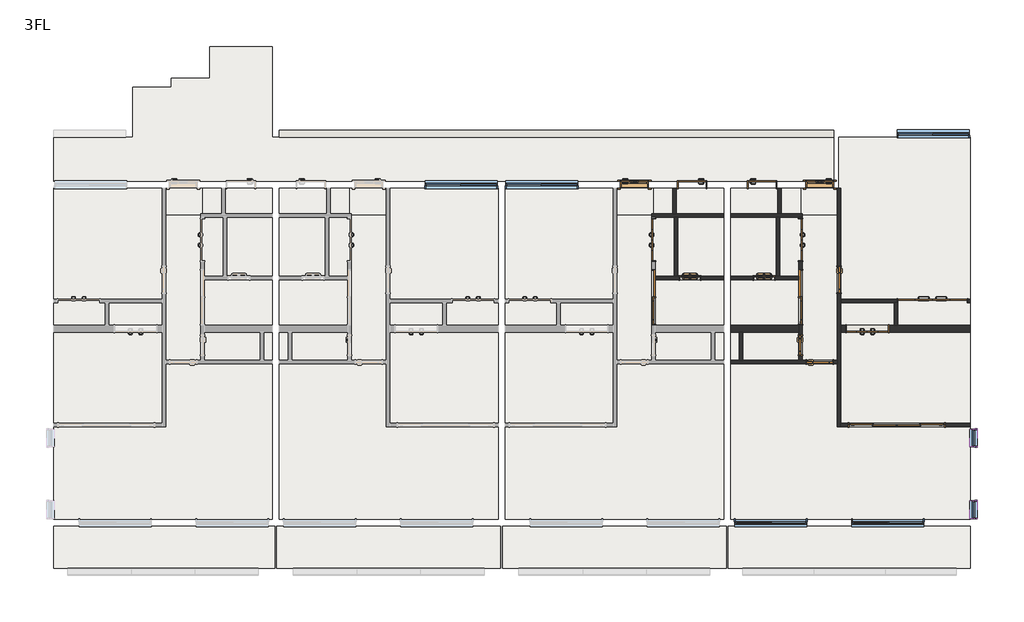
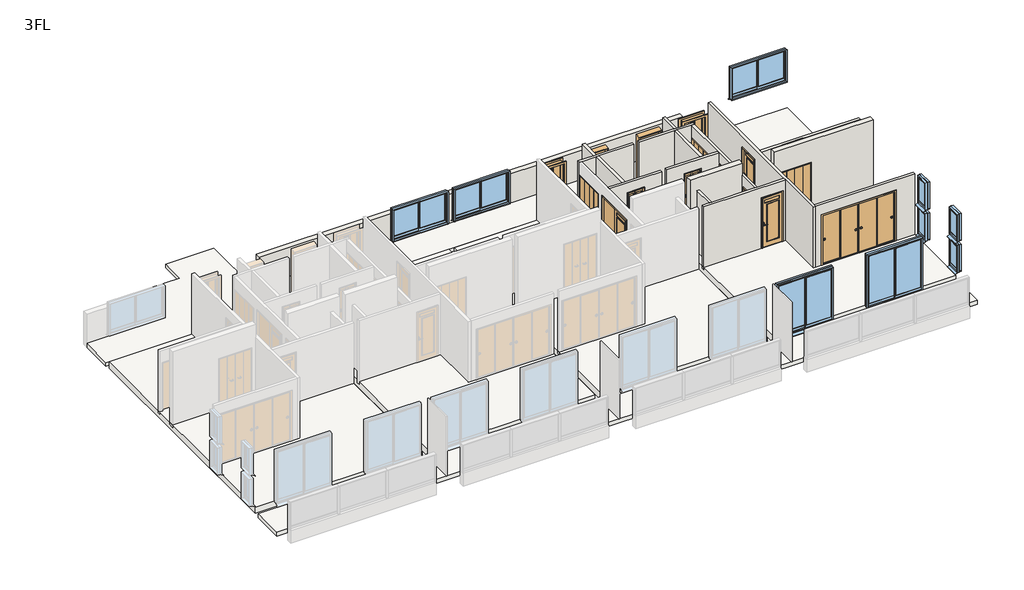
# One storey, part 3 of 3: 18 walls, 16 doors, 14 slabs, 9 windows.
"""IFC4 building model written with IfcOpenShell, lengths in millimetres."""

from ifc_helpers import new_model, si_unit, frame, origin, place, context, project, spatial, polyline, outline, extrude, faceted_brep, transform, mapped, element, save
from components import door_1200x2000_6a144d60, door_1200x2000_ebe1d490, door_1200x2000_99d19fb3, door_1600x2000_09a7ee27, door_1600x2000_1f5bdc43, door_2800x2000_04aa64cd, door_600x2000_6a266bef, door_600x2000_8ea70a65, door_600x2000_94bb9c3c, door_800x2000_a7d1584b, door_800x2000_13e9f519, door_800x2000_ccb03061, door_800x2000_010bfebf, w2000h2000_5dbb6d6a, w800h2000_1d97c4d4, w800h2000_0ab7d42c, window_2000x1200_fc91d1cf, window_2000x2000_f1ff98da, window_450x1000_e0a5e2da, window_450x1000_1cddc73c

model = new_model("IFC4")

# Units and contexts
model_context = context("Model", 3, world=origin())
ifc_project = project(units=[si_unit("LENGTHUNIT", "METRE", prefix="MILLI")], contexts=[model_context])

# Site, building, storey
site = spatial("IfcSite", under=ifc_project)
building = spatial("IfcBuilding", under=site)
storey = spatial("IfcBuildingStorey", under=building, Name="3FL", Elevation=7000.0)

# Doors
placement = place(None, origin())
door_1200x2000_shape = door_1200x2000_6a144d60(model_context)
element("IfcDoor", 1, ObjectType="木製折戸 : 1200x2000", at=placement, inside=storey, context=model_context, shape_type="MappedRepresentation", body=[
    mapped(door_1200x2000_shape, transform((6071.2812754, -7280.1171638, 7000.0), x_axis=(0.0, 1.0, 0.0), y_axis=(-1.0, 0.0, 0.0), z_axis=(0.0, 0.0, 1.0))),
])
door_1200x2000_2_shape = door_1200x2000_ebe1d490(model_context)
element("IfcDoor", 2, ObjectType="木製折戸 : 1200x2000", at=placement, inside=storey, context=model_context, shape_type="MappedRepresentation", body=[
    mapped(door_1200x2000_2_shape, transform((12183.7812754, -9820.1171638, 7100.0), x_axis=(1.0, 0.0, 0.0), y_axis=(0.0, 1.0, 0.0), z_axis=(0.0, 0.0, 1.0))),
])
door_1200x2000_3_shape = door_1200x2000_99d19fb3(model_context)
element("IfcDoor", 3, ObjectType="木製折戸 : 1200x2000", at=placement, inside=storey, context=model_context, shape_type="MappedRepresentation", body=[
    mapped(door_1200x2000_3_shape, transform((10271.2812754, -7280.1171638, 7000.0), x_axis=(0.0, 1.0, 0.0), y_axis=(-1.0, 0.0, 0.0), z_axis=(0.0, 0.0, 1.0))),
])
door_1600x2000_shape = door_1600x2000_09a7ee27(model_context)
element("IfcDoor", 4, ObjectType="片引戸CL2017 : 1600x2000", at=placement, inside=storey, context=model_context, shape_type="MappedRepresentation", body=[
    mapped(door_1600x2000_shape, transform((6071.2812754, -8920.1171638, 7100.0), x_axis=(0.0, -1.0, 0.0), y_axis=(1.0, 0.0, 0.0), z_axis=(0.0, 0.0, 1.0))),
])
door_1600x2000_2_shape = door_1600x2000_1f5bdc43(model_context)
element("IfcDoor", 5, ObjectType="片引戸CL2017 : 1600x2000", at=placement, inside=storey, context=model_context, shape_type="MappedRepresentation", body=[
    mapped(door_1600x2000_2_shape, transform((10271.2812754, -8920.1171638, 7100.0), x_axis=(0.0, -1.0, 0.0), y_axis=(1.0, 0.0, 0.0), z_axis=(0.0, 0.0, 1.0))),
])
door_2800x2000_shape = door_2800x2000_04aa64cd(model_context)
element("IfcDoor", 6, ObjectType="引違い 4 枚 2 溝_襖 : 2800x2000", at=placement, inside=storey, context=model_context, shape_type="MappedRepresentation", body=[
    mapped(door_2800x2000_shape, transform((13015.7457714, -12570.1171638, 7100.0), x_axis=(-1.0, 0.0, 0.0), y_axis=(0.0, -1.0, 0.0), z_axis=(0.0, 0.0, 1.0))),
])
door_600x2000_shape = door_600x2000_6a266bef(model_context)
element("IfcDoor", 7, ObjectType="浴室折戸 : 600x2000", at=placement, inside=storey, context=model_context, shape_type="MappedRepresentation", body=[
    mapped(door_600x2000_shape, transform((7111.2812754, -8370.1171638, 7100.0), x_axis=(1.0, 0.0, 0.0), y_axis=(0.0, 1.0, 0.0), z_axis=(0.0, 0.0, 1.0))),
])
door_600x2000_2_shape = door_600x2000_8ea70a65(model_context)
element("IfcDoor", 8, ObjectType="片開き戸CL2058 : 600x2000", at=placement, inside=storey, context=model_context, shape_type="MappedRepresentation", body=[
    mapped(door_600x2000_2_shape, transform((10271.2812754, -10295.1171638, 7100.0), x_axis=(0.0, -1.0, 0.0), y_axis=(1.0, 0.0, 0.0), z_axis=(0.0, 0.0, 1.0))),
])
door_600x2000_3_shape = door_600x2000_94bb9c3c(model_context)
element("IfcDoor", 9, ObjectType="浴室折戸 : 600x2000", at=placement, inside=storey, context=model_context, shape_type="MappedRepresentation", body=[
    mapped(door_600x2000_3_shape, transform((9231.2812754, -8370.1171638, 7100.0), x_axis=(-1.0, 0.0, 0.0), y_axis=(0.0, -1.0, 0.0), z_axis=(0.0, 0.0, 1.0))),
])
door_800x2000_shape = door_800x2000_a7d1584b(model_context)
element("IfcDoor", 10, ObjectType="片開き3 : 800x2000", at=placement, inside=storey, context=model_context, shape_type="MappedRepresentation", body=[
    mapped(door_800x2000_shape, transform((5521.2812754, -5700.1171638, 7000.0), x_axis=(1.0, 0.0, 0.0), y_axis=(0.0, 1.0, 0.0), z_axis=(0.0, 0.0, 1.0))),
])
door_800x2000_2_shape = door_800x2000_13e9f519(model_context)
element("IfcDoor", 11, ObjectType="片開き戸CL2058 : 800x2000", at=placement, inside=storey, context=model_context, shape_type="MappedRepresentation", body=[
    mapped(door_800x2000_2_shape, transform((10821.2812754, -10770.1171638, 7100.0), x_axis=(1.0, 0.0, 0.0), y_axis=(0.0, 1.0, 0.0), z_axis=(0.0, 0.0, 1.0))),
])
door_800x2000_3_shape = door_800x2000_ccb03061(model_context)
element("IfcDoor", 12, ObjectType="片開き戸CL2058 : 800x2000", at=placement, inside=storey, context=model_context, shape_type="MappedRepresentation", body=[
    mapped(door_800x2000_3_shape, transform((11371.2812754, -8420.1171638, 7100.0), x_axis=(0.0, -1.0, 0.0), y_axis=(1.0, 0.0, 0.0), z_axis=(0.0, 0.0, 1.0))),
])
door_800x2000_4_shape = door_800x2000_010bfebf(model_context)
element("IfcDoor", 13, ObjectType="片開き3 : 800x2000", at=placement, inside=storey, context=model_context, shape_type="MappedRepresentation", body=[
    mapped(door_800x2000_4_shape, transform((10821.2812754, -5700.1171638, 7000.0), x_axis=(-1.0, 0.0, 0.0), y_axis=(0.0, -1.0, 0.0), z_axis=(0.0, 0.0, 1.0))),
])
w2000h2000_shape = w2000h2000_5dbb6d6a(model_context)
element("IfcDoor", 14, ObjectType="木製折戸 : w2000h2000", at=placement, inside=storey, context=model_context, shape_type="MappedRepresentation", body=[
    mapped(w2000h2000_shape, transform((14046.2812754, -9020.1171638, 7000.0), x_axis=(-1.0, 0.0, 0.0), y_axis=(0.0, -1.0, 0.0), z_axis=(0.0, 0.0, 1.0))),
])
w800h2000_shape = w800h2000_1d97c4d4(model_context)
element("IfcDoor", 15, ObjectType="片開き : w800h2000", at=placement, inside=storey, context=model_context, shape_type="MappedRepresentation", body=[
    mapped(w800h2000_shape, transform((7171.2812754, -5700.1171638, 7000.0), x_axis=(-1.0, 0.0, 0.0), y_axis=(0.0, -1.0, 0.0), z_axis=(0.0, 0.0, 1.0))),
])
w800h2000_2_shape = w800h2000_0ab7d42c(model_context)
element("IfcDoor", 16, ObjectType="片開き : w800h2000", at=placement, inside=storey, context=model_context, shape_type="MappedRepresentation", body=[
    mapped(w800h2000_2_shape, transform((9171.2812754, -5700.1171638, 7000.0), x_axis=(1.0, 0.0, 0.0), y_axis=(0.0, 1.0, 0.0), z_axis=(0.0, 0.0, 1.0))),
])

# Slabs
element("IfcSlab", 17, ObjectType="RC150＋100", at=placement, inside=storey, context=model_context, shape_type="SweptSolid", body=[
    extrude(outline(polyline([(-4828.7187246, -15270.1171638), (-11078.7187246, -15270.1171638), (-11078.7187246, -5800.1171638), (-7928.7187246, -5800.1171638), (-7928.7187246, -6580.1171638), (-6828.7187246, -6580.1171638), (-6828.7187246, -5800.1171638), (-4828.7187246, -5800.1171638), (-4828.7187246, -6580.1171638), (-6188.7187246, -6580.1171638), (-6188.7187246, -8370.1171638), (-4828.7187246, -8370.1171638), (-4828.7187246, -15270.1171638)])), frame((0.0, 0.0, 6850.0), z_axis=(0.0, 0.0, 1.0), x_axis=(1.0, 0.0, 0.0)), (0.0, 0.0, 1.0), 250.0),
])
element("IfcSlab", 18, ObjectType="RC150＋100", at=placement, inside=storey, context=model_context, shape_type="SweptSolid", body=[
    extrude(outline(polyline([(-4628.7187246, -15270.1171638), (-4628.7187246, -8370.1171638), (-3268.7187246, -8370.1171638), (-3268.7187246, -6580.1171638), (-4628.7187246, -6580.1171638), (-4628.7187246, -5800.1171638), (-2628.7187246, -5800.1171638), (-2628.7187246, -6580.1171638), (-1528.7187246, -6580.1171638), (-1528.7187246, -5800.1171638), (1621.2812754, -5800.1171638), (1621.2812754, -15270.1171638), (-4628.7187246, -15270.1171638)])), frame((0.0, 0.0, 6850.0), z_axis=(0.0, 0.0, 1.0), x_axis=(1.0, 0.0, 0.0)), (0.0, 0.0, 1.0), 250.0),
])
element("IfcSlab", 19, ObjectType="RC150＋100", at=placement, inside=storey, context=model_context, shape_type="SweptSolid", body=[
    extrude(outline(polyline([(8071.2812754, -15270.1171638), (1821.2812754, -15270.1171638), (1821.2812754, -5800.1171638), (4971.2812754, -5800.1171638), (4971.2812754, -6580.1171638), (6071.2812754, -6580.1171638), (6071.2812754, -5800.1171638), (8071.2812754, -5800.1171638), (8071.2812754, -6580.1171638), (6711.2812754, -6580.1171638), (6711.2812754, -8370.1171638), (8071.2812754, -8370.1171638), (8071.2812754, -15270.1171638)])), frame((0.0, 0.0, 6850.0), z_axis=(0.0, 0.0, 1.0), x_axis=(1.0, 0.0, 0.0)), (0.0, 0.0, 1.0), 250.0),
])
element("IfcSlab", 20, ObjectType="RC150＋100", at=placement, inside=storey, context=model_context, shape_type="SweptSolid", body=[
    extrude(outline(polyline([(8271.2812754, -15270.1171638), (8271.2812754, -8370.1171638), (9631.2812754, -8370.1171638), (9631.2812754, -6580.1171638), (8271.2812754, -6580.1171638), (8271.2812754, -5800.1171638), (10271.2812754, -5800.1171638), (10271.2812754, -6580.1171638), (11371.2812754, -6580.1171638), (11371.2812754, -4350.1171638), (15121.2812754, -4350.1171638), (15121.2812754, -15270.1171638), (8271.2812754, -15270.1171638)])), frame((0.0, 0.0, 6850.0), z_axis=(0.0, 0.0, 1.0), x_axis=(1.0, 0.0, 0.0)), (0.0, 0.0, 1.0), 250.0),
])
element("IfcSlab", 21, ObjectType="RC150", at=placement, inside=storey, context=model_context, shape_type="SweptSolid", body=[
    extrude(outline(polyline([(-4828.7187246, -8370.1171638), (-6188.7187246, -8370.1171638), (-6188.7187246, -6580.1171638), (-4828.7187246, -6580.1171638), (-4828.7187246, -8370.1171638)])), frame((0.0, 0.0, 6850.0), z_axis=(0.0, 0.0, 1.0), x_axis=(1.0, 0.0, 0.0)), (0.0, 0.0, 1.0), 150.0),
])
element("IfcSlab", 22, ObjectType="RC150", at=placement, inside=storey, context=model_context, shape_type="SweptSolid", body=[
    extrude(outline(polyline([(-6828.7187246, -6580.1171638), (-7928.7187246, -6580.1171638), (-7928.7187246, -5800.1171638), (-6828.7187246, -5800.1171638), (-6828.7187246, -6580.1171638)])), frame((0.0, 0.0, 6800.0), z_axis=(0.0, 0.0, 1.0), x_axis=(1.0, 0.0, 0.0)), (0.0, 0.0, 1.0), 150.0),
])
element("IfcSlab", 23, ObjectType="RC150", at=placement, inside=storey, context=model_context, shape_type="SweptSolid", body=[
    extrude(outline(polyline([(-4628.7187246, -8370.1171638), (-4628.7187246, -6580.1171638), (-3268.7187246, -6580.1171638), (-3268.7187246, -8370.1171638), (-4628.7187246, -8370.1171638)])), frame((0.0, 0.0, 6850.0), z_axis=(0.0, 0.0, 1.0), x_axis=(1.0, 0.0, 0.0)), (0.0, 0.0, 1.0), 150.0),
])
element("IfcSlab", 24, ObjectType="RC150", at=placement, inside=storey, context=model_context, shape_type="SweptSolid", body=[
    extrude(outline(polyline([(-2628.7187246, -6580.1171638), (-2628.7187246, -5800.1171638), (-1528.7187246, -5800.1171638), (-1528.7187246, -6580.1171638), (-2628.7187246, -6580.1171638)])), frame((0.0, 0.0, 6800.0), z_axis=(0.0, 0.0, 1.0), x_axis=(1.0, 0.0, 0.0)), (0.0, 0.0, 1.0), 150.0),
])
element("IfcSlab", 25, ObjectType="RC150", at=placement, inside=storey, context=model_context, shape_type="SweptSolid", body=[
    extrude(outline(polyline([(8071.2812754, -8370.1171638), (6711.2812754, -8370.1171638), (6711.2812754, -6580.1171638), (8071.2812754, -6580.1171638), (8071.2812754, -8370.1171638)])), frame((0.0, 0.0, 6850.0), z_axis=(0.0, 0.0, 1.0), x_axis=(1.0, 0.0, 0.0)), (0.0, 0.0, 1.0), 150.0),
])
element("IfcSlab", 26, ObjectType="RC150", at=placement, inside=storey, context=model_context, shape_type="SweptSolid", body=[
    extrude(outline(polyline([(6071.2812754, -6580.1171638), (4971.2812754, -6580.1171638), (4971.2812754, -5800.1171638), (6071.2812754, -5800.1171638), (6071.2812754, -6580.1171638)])), frame((0.0, 0.0, 6800.0), z_axis=(0.0, 0.0, 1.0), x_axis=(1.0, 0.0, 0.0)), (0.0, 0.0, 1.0), 150.0),
])
element("IfcSlab", 27, ObjectType="RC150", at=placement, inside=storey, context=model_context, shape_type="SweptSolid", body=[
    extrude(outline(polyline([(8271.2812754, -8370.1171638), (8271.2812754, -6580.1171638), (9631.2812754, -6580.1171638), (9631.2812754, -8370.1171638), (8271.2812754, -8370.1171638)])), frame((0.0, 0.0, 6850.0), z_axis=(0.0, 0.0, 1.0), x_axis=(1.0, 0.0, 0.0)), (0.0, 0.0, 1.0), 150.0),
])
element("IfcSlab", 28, ObjectType="RC150", at=placement, inside=storey, context=model_context, shape_type="SweptSolid", body=[
    extrude(outline(polyline([(10271.2812754, -6580.1171638), (10271.2812754, -5800.1171638), (11371.2812754, -5800.1171638), (11371.2812754, -6580.1171638), (10271.2812754, -6580.1171638)])), frame((0.0, 0.0, 6800.0), z_axis=(0.0, 0.0, 1.0), x_axis=(1.0, 0.0, 0.0)), (0.0, 0.0, 1.0), 150.0),
])
element("IfcSlab", 29, ObjectType="RC150", at=placement, inside=storey, context=model_context, shape_type="SweptSolid", body=[
    extrude(outline(polyline([(15121.2812754, -15470.1171638), (15121.2812754, -16670.1171638), (-11078.7187246, -16670.1171638), (-11078.7187246, -15470.1171638), (15121.2812754, -15470.1171638)])), frame((0.0, 0.0, 6800.0), z_axis=(0.0, 0.0, 1.0), x_axis=(1.0, 0.0, 0.0)), (0.0, 0.0, 1.0), 150.0),
])
element("IfcSlab", 30, ObjectType="RC150", at=placement, inside=storey, context=model_context, shape_type="SweptSolid", body=[
    extrude(outline(polyline([(-8828.7187246, -4350.1171638), (-8828.7187246, -2920.1171638), (-7728.7187246, -2920.1171638), (-7728.7187246, -2660.1171638), (-6628.7187246, -2660.1171638), (-6628.7187246, -1750.1171638), (-4828.7187246, -1750.1171638), (-4828.7187246, -4350.1171638), (11221.2812754, -4350.1171638), (11221.2812754, -5600.1171638), (-11078.7187246, -5600.1171638), (-11078.7187246, -4350.1171638), (-8828.7187246, -4350.1171638)])), frame((0.0, 0.0, 6800.0), z_axis=(0.0, 0.0, 1.0), x_axis=(1.0, 0.0, 0.0)), (0.0, 0.0, 1.0), 150.0),
])

# Walls
element("IfcWall", 31, ObjectType="(R)RC200", at=placement, inside=storey, context=model_context, shape_type="Brep", body=[
    faceted_brep([(15121.2812754, -9720.1171638, 7000.0), (13046.2812754, -9720.1171638, 7000.0), (12946.2812754, -9720.1171638, 7000.0), (11421.2812754, -9720.1171638, 7000.0), (11421.2812754, -9720.1171638, 10000.0), (15121.2812754, -9720.1171638, 10000.0), (12803.7812754, -9720.1171638, 9120.0), (11563.7812754, -9720.1171638, 9120.0), (11563.7812754, -9720.1171638, 7100.0), (12803.7812754, -9720.1171638, 7100.0), (15121.2812754, -9920.1171638, 7000.0), (15121.2812754, -9920.1171638, 10000.0), (11421.2812754, -9920.1171638, 10000.0), (11421.2812754, -9920.1171638, 7000.0), (12803.7812754, -9920.1171638, 9120.0), (12803.7812754, -9920.1171638, 7100.0), (11563.7812754, -9920.1171638, 7100.0), (11563.7812754, -9920.1171638, 9120.0)], [[[0, 1, 2, 3, 4, 5], [6, 7, 8, 9]], [[10, 11, 12, 13], [14, 15, 16, 17]], [[3, 2, 1, 0, 10, 13]], [[5, 4, 12, 11]], [[4, 3, 13, 12]], [[15, 14, 6, 9]], [[16, 15, 9, 8]], [[17, 16, 8, 7]], [[14, 17, 7, 6]], [[0, 5, 11, 10]]]),
])
element("IfcWall", 32, ObjectType="(R)RC200", at=placement, inside=storey, context=model_context, shape_type="Brep", body=[
    faceted_brep([(10221.2812754, -9720.1171638, 7000.0), (8271.2812754, -9720.1171638, 7000.0), (8271.2812754, -9720.1171638, 10000.0), (10221.2812754, -9720.1171638, 10000.0), (10221.2812754, -9720.1171638, 9100.0), (10221.2812754, -9720.1171638, 7100.0), (10221.2812754, -9920.1171638, 7000.0), (10221.2812754, -9920.1171638, 10000.0), (8271.2812754, -9920.1171638, 10000.0), (8271.2812754, -9920.1171638, 7000.0), (8521.2812754, -9920.1171638, 7000.0), (8621.2812754, -9920.1171638, 7000.0)], [[[0, 1, 2, 3, 4, 5]], [[6, 7, 8, 9, 10, 11]], [[1, 0, 6, 11, 10, 9]], [[3, 2, 8, 7]], [[0, 5, 4, 3, 7, 6]], [[2, 1, 9, 8]]]),
])
element("IfcWall", 33, ObjectType="(R)RC200", at=placement, inside=storey, context=model_context, shape_type="SweptSolid", body=[
    extrude(outline(polyline([(11221.2812754, -4350.1171638), (-4628.7187246, -4350.1171638), (-4628.7187246, -4150.1171638), (11221.2812754, -4150.1171638), (11221.2812754, -4350.1171638)])), frame((0.0, 0.0, 6800.0), z_axis=(0.0, 0.0, 1.0), x_axis=(1.0, 0.0, 0.0)), (0.0, 0.0, 1.0), 1300.0),
])
element("IfcWall", 34, ObjectType="(L1)LGS100", at=placement, inside=storey, context=model_context, shape_type="Brep", body=[
    faceted_brep([(6021.2812754, -6630.1171638, 7000.0), (6121.2812754, -6630.1171638, 7000.0), (6661.2812754, -6630.1171638, 7000.0), (6761.2812754, -6630.1171638, 7000.0), (8071.2812754, -6630.1171638, 7000.0), (8071.2812754, -6630.1171638, 9500.0), (6761.2812754, -6630.1171638, 9500.0), (6661.2812754, -6630.1171638, 9500.0), (6121.2812754, -6630.1171638, 9500.0), (6021.2812754, -6630.1171638, 9500.0), (6021.2812754, -6530.1171638, 7000.0), (6021.2812754, -6530.1171638, 9500.0), (6621.2812754, -6530.1171638, 9500.0), (6721.2812754, -6530.1171638, 9500.0), (8071.2812754, -6530.1171638, 9500.0), (8071.2812754, -6530.1171638, 7000.0), (6721.2812754, -6530.1171638, 7000.0), (6621.2812754, -6530.1171638, 7000.0)], [[[0, 1, 2, 3, 4, 5, 6, 7, 8, 9]], [[10, 11, 12, 13, 14, 15, 16, 17]], [[4, 3, 2, 1, 0, 10, 17, 16, 15]], [[9, 8, 7, 6, 5, 14, 13, 12, 11]], [[0, 9, 11, 10]], [[5, 4, 15, 14]]]),
])
element("IfcWall", 35, ObjectType="(L1)LGS100", at=placement, inside=storey, context=model_context, shape_type="SweptSolid", body=[
    extrude(outline(polyline([(6721.2812754, -5800.1171638), (6721.2812754, -6530.1171638), (6621.2812754, -6530.1171638), (6621.2812754, -5800.1171638), (6721.2812754, -5800.1171638)])), frame((0.0, 0.0, 7000.0), z_axis=(0.0, 0.0, 1.0), x_axis=(1.0, 0.0, 0.0)), (0.0, 0.0, 1.0), 2500.0),
])
element("IfcWall", 36, ObjectType="(L1)LGS100", at=placement, inside=storey, context=model_context, shape_type="SweptSolid", body=[
    extrude(outline(polyline([(6761.2812754, -6630.1171638), (6761.2812754, -8320.1171638), (6661.2812754, -8320.1171638), (6661.2812754, -6630.1171638), (6761.2812754, -6630.1171638)])), frame((0.0, 0.0, 7000.0), z_axis=(0.0, 0.0, 1.0), x_axis=(1.0, 0.0, 0.0)), (0.0, 0.0, 1.0), 2500.0),
])
element("IfcWall", 37, ObjectType="(L1)LGS100", at=placement, inside=storey, context=model_context, shape_type="Brep", body=[
    faceted_brep([(6121.2812754, -8420.1171638, 7000.0), (8071.2812754, -8420.1171638, 7000.0), (8071.2812754, -8420.1171638, 9500.0), (6121.2812754, -8420.1171638, 9500.0), (7431.2812754, -8420.1171638, 9120.0), (7431.2812754, -8420.1171638, 7100.0), (6791.2812754, -8420.1171638, 7100.0), (6791.2812754, -8420.1171638, 9120.0), (6121.2812754, -8320.1171638, 7000.0), (6121.2812754, -8320.1171638, 9500.0), (6661.2812754, -8320.1171638, 9500.0), (6761.2812754, -8320.1171638, 9500.0), (8071.2812754, -8320.1171638, 9500.0), (8071.2812754, -8320.1171638, 7000.0), (6761.2812754, -8320.1171638, 7000.0), (6661.2812754, -8320.1171638, 7000.0), (7431.2812754, -8320.1171638, 9120.0), (6791.2812754, -8320.1171638, 9120.0), (6791.2812754, -8320.1171638, 7100.0), (7431.2812754, -8320.1171638, 7100.0)], [[[0, 1, 2, 3], [4, 5, 6, 7]], [[8, 9, 10, 11, 12, 13, 14, 15], [16, 17, 18, 19]], [[1, 0, 8, 15, 14, 13]], [[3, 2, 12, 11, 10, 9]], [[5, 4, 16, 19]], [[6, 5, 19, 18]], [[7, 6, 18, 17]], [[4, 7, 17, 16]], [[0, 3, 9, 8]], [[2, 1, 13, 12]]]),
])
element("IfcWall", 38, ObjectType="(L1)LGS100", at=placement, inside=storey, context=model_context, shape_type="Brep", body=[
    faceted_brep([(11421.2812754, -12620.1171638, 7000.0), (11421.2812754, -12520.1171638, 7000.0), (11421.2812754, -9920.1171638, 7000.0), (11421.2812754, -9720.1171638, 7000.0), (11421.2812754, -9070.1171638, 7000.0), (11421.2812754, -8970.1171638, 7000.0), (11421.2812754, -5800.1171638, 7000.0), (11421.2812754, -5800.1171638, 9500.0), (11421.2812754, -8970.1171638, 9500.0), (11421.2812754, -9070.1171638, 9500.0), (11421.2812754, -12520.1171638, 9500.0), (11421.2812754, -12620.1171638, 9500.0), (11421.2812754, -8820.1171638, 7100.0), (11421.2812754, -8820.1171638, 9100.0), (11421.2812754, -8020.1171638, 9100.0), (11421.2812754, -8020.1171638, 7100.0), (11321.2812754, -12620.1171638, 7000.0), (11321.2812754, -12620.1171638, 9500.0), (11321.2812754, -10820.1171638, 9500.0), (11321.2812754, -10720.1171638, 9500.0), (11321.2812754, -5800.1171638, 9500.0), (11321.2812754, -5800.1171638, 7000.0), (11321.2812754, -10720.1171638, 7000.0), (11321.2812754, -10820.1171638, 7000.0), (11321.2812754, -8820.1171638, 7100.0), (11321.2812754, -8020.1171638, 7100.0), (11321.2812754, -8020.1171638, 9100.0), (11321.2812754, -8820.1171638, 9100.0)], [[[0, 1, 2, 3, 4, 5, 6, 7, 8, 9, 10, 11], [12, 13, 14, 15]], [[16, 17, 18, 19, 20, 21, 22, 23], [24, 25, 26, 27]], [[6, 5, 4, 3, 2, 1, 0, 16, 23, 22, 21]], [[11, 10, 9, 8, 7, 20, 19, 18, 17]], [[0, 11, 17, 16]], [[13, 12, 24, 27]], [[14, 13, 27, 26]], [[15, 14, 26, 25]], [[12, 15, 25, 24]], [[7, 6, 21, 20]]]),
])
element("IfcWall", 39, ObjectType="(L1)LGS100", at=placement, inside=storey, context=model_context, shape_type="Brep", body=[
    faceted_brep([(10321.2812754, -6630.1171638, 9500.0), (10321.2812754, -10720.1171638, 9500.0), (10321.2812754, -10720.1171638, 7000.0), (10321.2812754, -7900.1171638, 7000.0), (10321.2812754, -7900.1171638, 9020.0), (10321.2812754, -6660.1171638, 9020.0), (10321.2812754, -6660.1171638, 7000.0), (10321.2812754, -6630.1171638, 7000.0), (10321.2812754, -10595.1171638, 7100.0), (10321.2812754, -10595.1171638, 9100.0), (10321.2812754, -9995.1171638, 9100.0), (10321.2812754, -9995.1171638, 7100.0), (10321.2812754, -9720.1171638, 7100.0), (10321.2812754, -9720.1171638, 9100.0), (10321.2812754, -8120.1171638, 9100.0), (10321.2812754, -8120.1171638, 7100.0), (10221.2812754, -10720.1171638, 9500.0), (10221.2812754, -8420.1171638, 9500.0), (10221.2812754, -8320.1171638, 9500.0), (10221.2812754, -6630.1171638, 9500.0), (10221.2812754, -6630.1171638, 7000.0), (10221.2812754, -6660.1171638, 7000.0), (10221.2812754, -6660.1171638, 9020.0), (10221.2812754, -7900.1171638, 9020.0), (10221.2812754, -7900.1171638, 7000.0), (10221.2812754, -8320.1171638, 7000.0), (10221.2812754, -8420.1171638, 7000.0), (10221.2812754, -9720.1171638, 7000.0), (10221.2812754, -9920.1171638, 7000.0), (10221.2812754, -10720.1171638, 7000.0), (10221.2812754, -10595.1171638, 7100.0), (10221.2812754, -9995.1171638, 7100.0), (10221.2812754, -9995.1171638, 9100.0), (10221.2812754, -10595.1171638, 9100.0), (10221.2812754, -9720.1171638, 9100.0), (10221.2812754, -9720.1171638, 7100.0), (10221.2812754, -8120.1171638, 7100.0), (10221.2812754, -8120.1171638, 9100.0)], [[[0, 1, 2, 3, 4, 5, 6, 7], [8, 9, 10, 11], [12, 13, 14, 15]], [[16, 17, 18, 19, 20, 21, 22, 23, 24, 25, 26, 27, 28, 29], [30, 31, 32, 33], [34, 35, 36, 37]], [[2, 29, 28, 27, 26, 25, 24, 3]], [[20, 7, 6, 21]], [[1, 0, 19, 18, 17, 16]], [[2, 1, 16, 29]], [[0, 7, 20, 19]], [[9, 8, 30, 33]], [[10, 9, 33, 32]], [[11, 10, 32, 31]], [[8, 11, 31, 30]], [[12, 35, 34, 13]], [[13, 34, 37, 14]], [[14, 37, 36, 15]], [[35, 12, 15, 36]], [[6, 5, 22, 21]], [[4, 3, 24, 23]], [[5, 4, 23, 22]]]),
])
element("IfcWall", 40, ObjectType="(L1)LGS100", at=placement, inside=storey, context=model_context, shape_type="Brep", body=[
    faceted_brep([(10321.2812754, -6530.1171638, 7000.0), (9721.2812754, -6530.1171638, 7000.0), (9621.2812754, -6530.1171638, 7000.0), (8271.2812754, -6530.1171638, 7000.0), (8271.2812754, -6530.1171638, 9500.0), (9621.2812754, -6530.1171638, 9500.0), (9721.2812754, -6530.1171638, 9500.0), (10321.2812754, -6530.1171638, 9500.0), (10321.2812754, -6630.1171638, 7000.0), (10321.2812754, -6630.1171638, 9500.0), (10221.2812754, -6630.1171638, 9500.0), (9681.2812754, -6630.1171638, 9500.0), (9581.2812754, -6630.1171638, 9500.0), (8271.2812754, -6630.1171638, 9500.0), (8271.2812754, -6630.1171638, 7000.0), (9581.2812754, -6630.1171638, 7000.0), (9681.2812754, -6630.1171638, 7000.0), (10221.2812754, -6630.1171638, 7000.0)], [[[0, 1, 2, 3, 4, 5, 6, 7]], [[8, 9, 10, 11, 12, 13, 14, 15, 16, 17]], [[3, 2, 1, 0, 8, 17, 16, 15, 14]], [[7, 6, 5, 4, 13, 12, 11, 10, 9]], [[0, 7, 9, 8]], [[4, 3, 14, 13]]]),
])
element("IfcWall", 41, ObjectType="(L1)LGS100", at=placement, inside=storey, context=model_context, shape_type="SweptSolid", body=[
    extrude(outline(polyline([(9721.2812754, -5800.1171638), (9721.2812754, -6530.1171638), (9621.2812754, -6530.1171638), (9621.2812754, -5800.1171638), (9721.2812754, -5800.1171638)])), frame((0.0, 0.0, 7000.0), z_axis=(0.0, 0.0, 1.0), x_axis=(1.0, 0.0, 0.0)), (0.0, 0.0, 1.0), 2500.0),
])
element("IfcWall", 42, ObjectType="(L1)LGS100", at=placement, inside=storey, context=model_context, shape_type="SweptSolid", body=[
    extrude(outline(polyline([(9681.2812754, -6630.1171638), (9681.2812754, -8320.1171638), (9581.2812754, -8320.1171638), (9581.2812754, -6630.1171638), (9681.2812754, -6630.1171638)])), frame((0.0, 0.0, 7000.0), z_axis=(0.0, 0.0, 1.0), x_axis=(1.0, 0.0, 0.0)), (0.0, 0.0, 1.0), 2500.0),
])
element("IfcWall", 43, ObjectType="(L1)LGS100", at=placement, inside=storey, context=model_context, shape_type="Brep", body=[
    faceted_brep([(10221.2812754, -8320.1171638, 7000.0), (9681.2812754, -8320.1171638, 7000.0), (9581.2812754, -8320.1171638, 7000.0), (8271.2812754, -8320.1171638, 7000.0), (8271.2812754, -8320.1171638, 9500.0), (9581.2812754, -8320.1171638, 9500.0), (9681.2812754, -8320.1171638, 9500.0), (10221.2812754, -8320.1171638, 9500.0), (8911.2812754, -8320.1171638, 9120.0), (8911.2812754, -8320.1171638, 7100.0), (9551.2812754, -8320.1171638, 7100.0), (9551.2812754, -8320.1171638, 9120.0), (10221.2812754, -8420.1171638, 7000.0), (10221.2812754, -8420.1171638, 9500.0), (8271.2812754, -8420.1171638, 9500.0), (8271.2812754, -8420.1171638, 7000.0), (8911.2812754, -8420.1171638, 9120.0), (9551.2812754, -8420.1171638, 9120.0), (9551.2812754, -8420.1171638, 7100.0), (8911.2812754, -8420.1171638, 7100.0)], [[[0, 1, 2, 3, 4, 5, 6, 7], [8, 9, 10, 11]], [[12, 13, 14, 15], [16, 17, 18, 19]], [[3, 2, 1, 0, 12, 15]], [[7, 6, 5, 4, 14, 13]], [[0, 7, 13, 12]], [[9, 8, 16, 19]], [[10, 9, 19, 18]], [[11, 10, 18, 17]], [[8, 11, 17, 16]], [[4, 3, 15, 14]]]),
])
element("IfcWall", 44, ObjectType="(L1)LGS100", at=placement, inside=storey, context=model_context, shape_type="Brep", body=[
    faceted_brep([(11321.2812754, -10720.1171638, 7000.0), (10321.2812754, -10720.1171638, 7000.0), (10221.2812754, -10720.1171638, 7000.0), (8621.2812754, -10720.1171638, 7000.0), (8521.2812754, -10720.1171638, 7000.0), (8271.2812754, -10720.1171638, 7000.0), (8271.2812754, -10720.1171638, 9500.0), (8521.2812754, -10720.1171638, 9500.0), (8621.2812754, -10720.1171638, 9500.0), (10221.2812754, -10720.1171638, 9500.0), (10321.2812754, -10720.1171638, 9500.0), (11321.2812754, -10720.1171638, 9500.0), (11221.2812754, -10720.1171638, 7100.0), (11221.2812754, -10720.1171638, 9100.0), (10421.2812754, -10720.1171638, 9100.0), (10421.2812754, -10720.1171638, 7100.0), (11321.2812754, -10820.1171638, 7000.0), (11321.2812754, -10820.1171638, 9500.0), (8271.2812754, -10820.1171638, 9500.0), (8271.2812754, -10820.1171638, 7000.0), (11221.2812754, -10820.1171638, 7100.0), (10421.2812754, -10820.1171638, 7100.0), (10421.2812754, -10820.1171638, 9100.0), (11221.2812754, -10820.1171638, 9100.0)], [[[0, 1, 2, 3, 4, 5, 6, 7, 8, 9, 10, 11], [12, 13, 14, 15]], [[16, 17, 18, 19], [20, 21, 22, 23]], [[5, 4, 3, 2, 1, 0, 16, 19]], [[11, 10, 9, 8, 7, 6, 18, 17]], [[0, 11, 17, 16]], [[13, 12, 20, 23]], [[14, 13, 23, 22]], [[15, 14, 22, 21]], [[12, 15, 21, 20]], [[6, 5, 19, 18]]]),
])
element("IfcWall", 45, ObjectType="(L1)LGS100", at=placement, inside=storey, context=model_context, shape_type="SweptSolid", body=[
    extrude(outline(polyline([(8621.2812754, -9920.1171638), (8621.2812754, -10720.1171638), (8521.2812754, -10720.1171638), (8521.2812754, -9920.1171638), (8621.2812754, -9920.1171638)])), frame((0.0, 0.0, 7000.0), z_axis=(0.0, 0.0, 1.0), x_axis=(1.0, 0.0, 0.0)), (0.0, 0.0, 1.0), 2500.0),
])
element("IfcWall", 46, ObjectType="(L1)LGS100", at=placement, inside=storey, context=model_context, shape_type="Brep", body=[
    faceted_brep([(15121.2812754, -8970.1171638, 7000.0), (15066.2812754, -8970.1171638, 7000.0), (15066.2812754, -8970.1171638, 9020.0), (13026.2812754, -8970.1171638, 9020.0), (13026.2812754, -8970.1171638, 7000.0), (11421.2812754, -8970.1171638, 7000.0), (11421.2812754, -8970.1171638, 9500.0), (15121.2812754, -8970.1171638, 9500.0), (15066.2812754, -9070.1171638, 9020.0), (15066.2812754, -9070.1171638, 7000.0), (15121.2812754, -9070.1171638, 7000.0), (15121.2812754, -9070.1171638, 9500.0), (13046.2812754, -9070.1171638, 9500.0), (12946.2812754, -9070.1171638, 9500.0), (11421.2812754, -9070.1171638, 9500.0), (11421.2812754, -9070.1171638, 7000.0), (12946.2812754, -9070.1171638, 7000.0), (13026.2812754, -9070.1171638, 7000.0), (13026.2812754, -9070.1171638, 9020.0)], [[[0, 1, 2, 3, 4, 5, 6, 7]], [[8, 9, 10, 11, 12, 13, 14, 15, 16, 17, 18]], [[10, 9, 1, 0]], [[17, 16, 15, 5, 4]], [[7, 6, 14, 13, 12, 11]], [[6, 5, 15, 14]], [[4, 3, 18, 17]], [[2, 1, 9, 8]], [[3, 2, 8, 18]], [[0, 7, 11, 10]]]),
])
element("IfcWall", 47, ObjectType="(L1)LGS100", at=placement, inside=storey, context=model_context, shape_type="Brep", body=[
    faceted_brep([(13046.2812754, -9720.1171638, 7000.0), (13046.2812754, -9070.1171638, 7000.0), (13046.2812754, -9070.1171638, 9500.0), (13046.2812754, -9720.1171638, 9500.0), (12946.2812754, -9720.1171638, 7000.0), (12946.2812754, -9720.1171638, 9500.0), (12946.2812754, -9070.1171638, 9500.0), (12946.2812754, -9070.1171638, 7000.0), (13026.2812754, -9070.1171638, 7000.0)], [[[0, 1, 2, 3]], [[4, 5, 6, 7]], [[1, 0, 4, 7, 8]], [[3, 2, 6, 5]], [[0, 3, 5, 4]], [[2, 1, 8, 7, 6]]]),
])
element("IfcWall", 48, ObjectType="(L1)LGS100", at=placement, inside=storey, context=model_context, shape_type="SweptSolid", body=[
    extrude(outline(polyline([(7000.0, 15121.2812754), (9500.0, 15121.2812754), (9500.0, 11421.2812754), (7000.0, 11421.2812754), (7000.0, 15121.2812754)]), holes=[polyline([(9100.0, 11621.2812754), (9100.0, 14421.2812754), (7100.0, 14421.2812754), (7100.0, 11621.2812754), (9100.0, 11621.2812754)])]), frame((0.0, -12620.1171638, 0.0), z_axis=(0.0, 1.0, 0.0), x_axis=(0.0, 0.0, 1.0)), (0.0, 0.0, 1.0), 100.0),
])

# Windows
window_2000x1200_shape = window_2000x1200_fc91d1cf(model_context)
element("IfcWindow", 49, ObjectType="鋼製_一般枠_引違い-二枚 : 2000x1200", at=placement, inside=storey, context=model_context, shape_type="MappedRepresentation", body=[
    mapped(window_2000x1200_shape, transform((571.2812754, -5700.1171638, 7250.0), x_axis=(1.0, 0.0, 0.0), y_axis=(0.0, 1.0, 0.0), z_axis=(0.0, 0.0, 1.0))),
])
element("IfcWindow", 50, ObjectType="鋼製_一般枠_引違い-二枚 : 2000x1200", at=placement, inside=storey, context=model_context, shape_type="MappedRepresentation", body=[
    mapped(window_2000x1200_shape, transform((2871.2812754, -5700.1171638, 7250.0), x_axis=(1.0, 0.0, 0.0), y_axis=(0.0, 1.0, 0.0), z_axis=(0.0, 0.0, 1.0))),
])
element("IfcWindow", 51, ObjectType="鋼製_一般枠_引違い-二枚 : 2000x1200", at=placement, inside=storey, context=model_context, shape_type="MappedRepresentation", body=[
    mapped(window_2000x1200_shape, transform((14071.2812754, -4250.1171638, 7250.0), x_axis=(1.0, 0.0, 0.0), y_axis=(0.0, 1.0, 0.0), z_axis=(0.0, 0.0, 1.0))),
])
window_2000x2000_shape = window_2000x2000_f1ff98da(model_context)
element("IfcWindow", 52, ObjectType="鋼製_一般枠_引違い-二枚 : 2000x2000", at=placement, inside=storey, context=model_context, shape_type="MappedRepresentation", body=[
    mapped(window_2000x2000_shape, transform((12771.2812754, -15370.1171638, 6200.0), x_axis=(-1.0, 0.0, 0.0), y_axis=(0.0, -1.0, 0.0), z_axis=(0.0, 0.0, 1.0))),
])
element("IfcWindow", 53, ObjectType="鋼製_一般枠_引違い-二枚 : 2000x2000", at=placement, inside=storey, context=model_context, shape_type="MappedRepresentation", body=[
    mapped(window_2000x2000_shape, transform((9421.2812754, -15370.1171638, 6200.0), x_axis=(-1.0, 0.0, 0.0), y_axis=(0.0, -1.0, 0.0), z_axis=(0.0, 0.0, 1.0))),
])
window_450x1000_shape = window_450x1000_e0a5e2da(model_context)
element("IfcWindow", 54, ObjectType="鋼製_一般枠_嵌殺し : 450x1000", at=placement, inside=storey, context=model_context, shape_type="MappedRepresentation", body=[
    mapped(window_450x1000_shape, transform((15221.2812754, -14995.1171638, 7230.0), x_axis=(0.0, 1.0, 0.0), y_axis=(-1.0, 0.0, 0.0), z_axis=(0.0, 0.0, 1.0))),
])
element("IfcWindow", 55, ObjectType="鋼製_一般枠_嵌殺し : 450x1000", at=placement, inside=storey, context=model_context, shape_type="MappedRepresentation", body=[
    mapped(window_450x1000_shape, transform((15221.2812754, -12945.1171638, 7230.0), x_axis=(0.0, 1.0, 0.0), y_axis=(-1.0, 0.0, 0.0), z_axis=(0.0, 0.0, 1.0))),
])
window_450x1000_2_shape = window_450x1000_1cddc73c(model_context)
element("IfcWindow", 56, ObjectType="鋼製_一般枠_嵌殺し : 450x1000", at=placement, inside=storey, context=model_context, shape_type="MappedRepresentation", body=[
    mapped(window_450x1000_2_shape, transform((15221.2812754, -14995.1171638, 6010.0), x_axis=(0.0, -1.0, 0.0), y_axis=(1.0, 0.0, 0.0), z_axis=(0.0, 0.0, 1.0))),
])
element("IfcWindow", 57, ObjectType="鋼製_一般枠_嵌殺し : 450x1000", at=placement, inside=storey, context=model_context, shape_type="MappedRepresentation", body=[
    mapped(window_450x1000_2_shape, transform((15221.2812754, -12945.1171638, 6010.0), x_axis=(0.0, -1.0, 0.0), y_axis=(1.0, 0.0, 0.0), z_axis=(0.0, 0.0, 1.0))),
])

save(model, "model.ifc")
